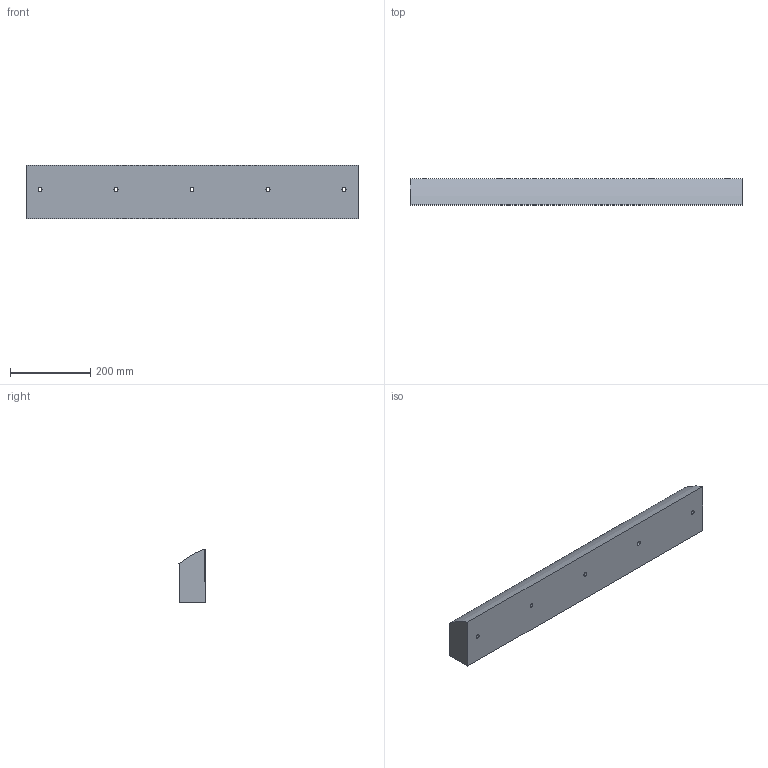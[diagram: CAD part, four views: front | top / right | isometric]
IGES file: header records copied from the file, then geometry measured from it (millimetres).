
Global section: file name: raio 3.igs; native system: NX V2312; preprocessor: SIEMENS PLM Software NX2312.5001; date: 20240809.190922; units: millimetre
Bounding box: 830 x 65 x 134.61 mm (x, y, z)
Surface area: 334324.3 mm2 (no closed solid volume)
Topology: 0 solids, 0 shells, 11 faces, 129 edges, 124 vertices
Faces by surface type: bspline 11
